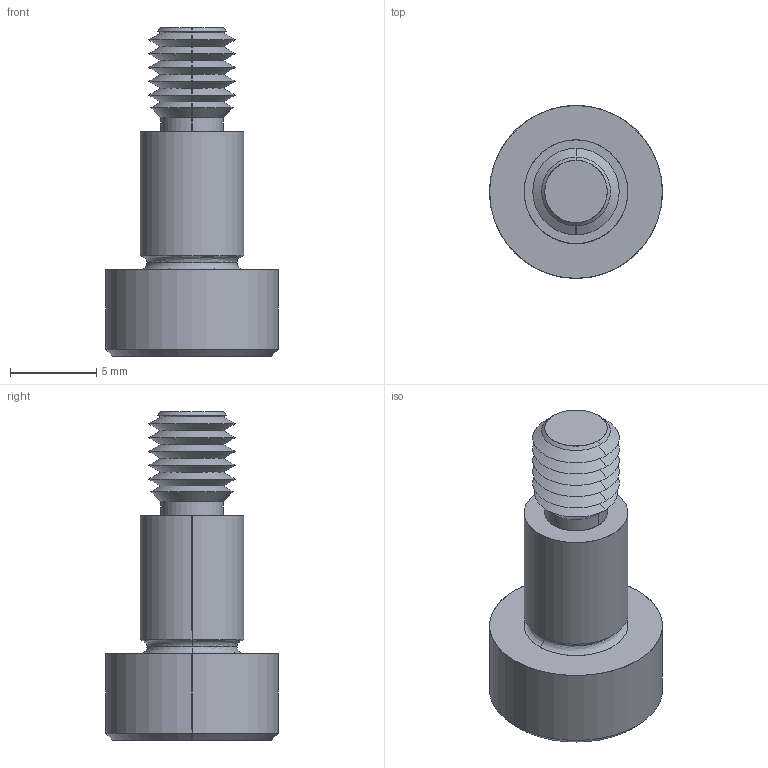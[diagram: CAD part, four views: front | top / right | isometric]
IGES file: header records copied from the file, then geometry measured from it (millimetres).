
Start section: SolidWorks IGES file using analytic representation for surfaces
Global section: file name: C:\Users\IanO\Documents\Temp Folder\GENERAL\SCREW REVISION\P0130_v2\P0130.T5_v2_20220106_IGES\P0130.060-008-T5.igs; native system: SolidWorks 2019; preprocessor: SolidWorks 2019; author: IanO; date: 220106.222208; units: millimetre
Bounding box: 10 x 10 x 19 mm (x, y, z)
Surface area: 638.4 mm2 (no closed solid volume)
Topology: 0 solids, 0 shells, 64 faces, 504 edges, 502 vertices
Faces by surface type: revolution 44, bspline 20
